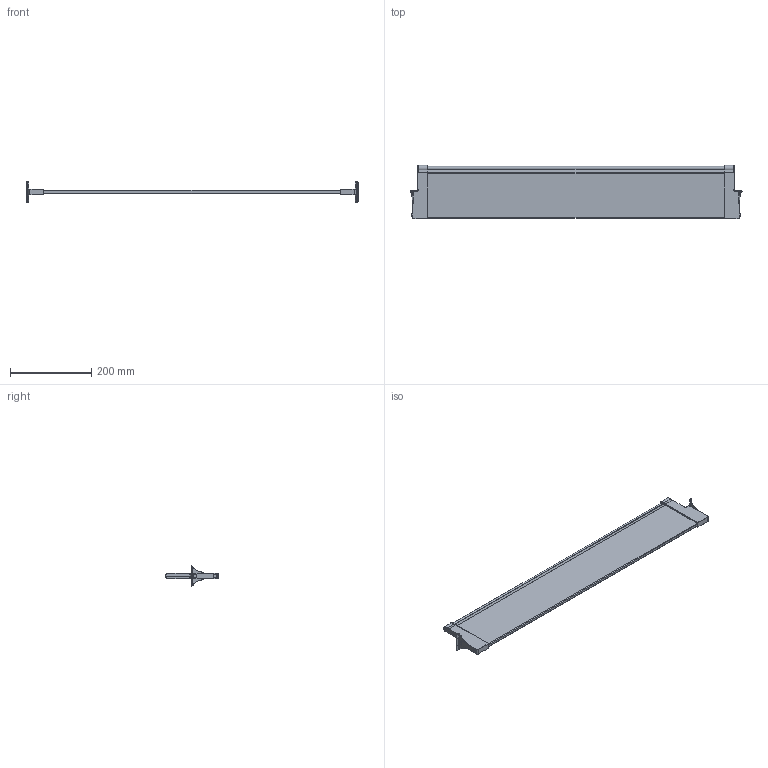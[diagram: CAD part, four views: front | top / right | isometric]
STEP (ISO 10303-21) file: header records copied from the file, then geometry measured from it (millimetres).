
FILE_DESCRIPTION (( 'STEP AP214' ), '1' );
FILE_NAME ('Nova-Pro P622 Querteiler H90Nova PRO Querteiler_H90_KAB 900_16.step', '2009-11-06T06:59:36', ( 'Waldinger Reinhard' ), ( 'Grass GmbH' ), 'SwSTEP 2.0', 'SolidWorks 2009', '' );
FILE_SCHEMA (( 'AUTOMOTIVE_DESIGN' ));
Length unit declared in the file: millimetre
Products named in the file (1): Nova-Pro P622 Querteiler H90Nova PRO Querteiler_H90_KAB 900_16
Bounding box: 818.1 x 132 x 49.97 mm (x, y, z)
Volume: 854984.7 mm3; surface area: 222023.7 mm2
Topology: 1 solids, 1 shells, 248 faces, 578 edges, 334 vertices
Faces by surface type: cylinder 107, bspline 64, plane 51, torus 12, sphere 12, cone 2
Entity records: 11002 total; most frequent: CARTESIAN_POINT 5879, ORIENTED_EDGE 1148, DIRECTION 966, EDGE_CURVE 574, AXIS2_PLACEMENT_3D 369, VERTEX_POINT 334, EDGE_LOOP 254, ADVANCED_FACE 248
